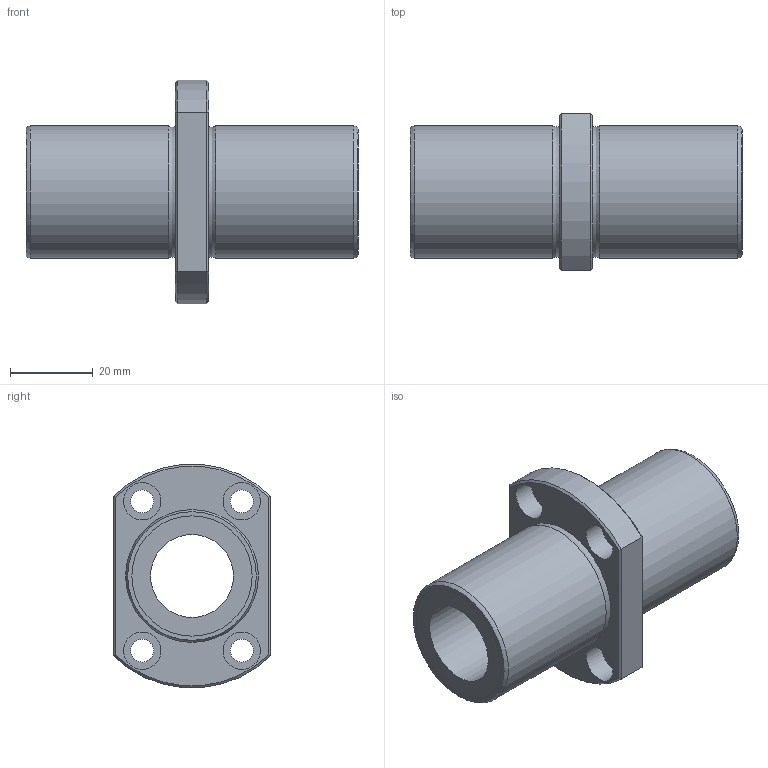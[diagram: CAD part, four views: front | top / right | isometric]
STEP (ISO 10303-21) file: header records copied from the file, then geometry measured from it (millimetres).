
FILE_DESCRIPTION((''),'2;1');
FILE_NAME('D:\製品 (図面)\カタログ用3D\リニアベアリング関連\STEP形式\LFDTC\LFDTC20B.stp','2010-06-04T08:41:03',('Tsuchiya'),(''),'Autodesk Inventor 10','Autodesk Inventor 10','');
FILE_SCHEMA(('AUTOMOTIVE_DESIGN { 1 0 10303 214 1 1 1 1 }'));
Length unit declared in the file: millimetre
Products named in the file (1): LFDTC20B
Bounding box: 80 x 38 x 53.8 mm (x, y, z)
Volume: 45848 mm3; surface area: 17152.5 mm2
Topology: 1 solids, 1 shells, 39 faces, 75 edges, 46 vertices
Faces by surface type: plane 16, cylinder 15, cone 4, torus 2, bspline 2
Full cylindrical faces by diameter (mm): 5.5 x4, 9 x4, 20 x1, 29 x2, 32 x2
Entity records: 1073 total; most frequent: CARTESIAN_POINT 292, DIRECTION 164, ORIENTED_EDGE 116, AXIS2_PLACEMENT_3D 76, EDGE_LOOP 74, EDGE_CURVE 58, VERTEX_POINT 46, FACE_OUTER_BOUND 39
